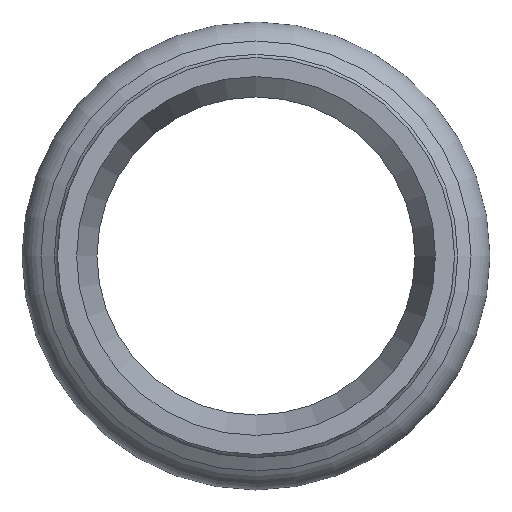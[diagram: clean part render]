
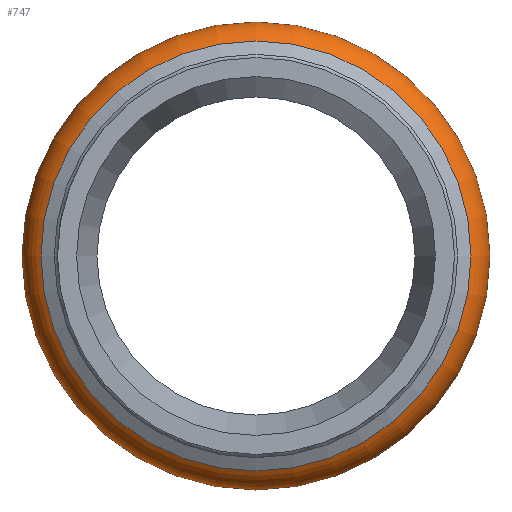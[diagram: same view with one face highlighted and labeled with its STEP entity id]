
A CAD part, left-side view. The second image highlights one B-rep face of the part: STEP entity #747.
In plain terms, the highlighted toroidal (fillet/blend) face has major radius 15.4 mm and minor radius 3 mm.
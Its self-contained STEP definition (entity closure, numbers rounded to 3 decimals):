
#449=CARTESIAN_POINT('',(-20.061,16.,0.));
#450=VERTEX_POINT('',#449);
#451=CARTESIAN_POINT('',(-20.061,0.,0.0));
#452=DIRECTION('',(1.0,0.0,0.0));
#453=DIRECTION('',(0.0,-1.0,0.0));
#454=AXIS2_PLACEMENT_3D('',#451,#452,#453);
#455=CIRCLE('',#454,16.);
#456=EDGE_CURVE('',#450,#450,#455,.T.);
#593=CARTESIAN_POINT('',(-25.598,16.9,0.0));
#594=VERTEX_POINT('',#593);
#595=CARTESIAN_POINT('',(-25.598,0.,0.0));
#596=DIRECTION('',(1.0,0.0,0.0));
#597=DIRECTION('',(0.0,1.0,0.0));
#598=AXIS2_PLACEMENT_3D('',#595,#596,#597);
#599=CIRCLE('',#598,16.9);
#600=EDGE_CURVE('',#594,#594,#599,.T.);
#736=CARTESIAN_POINT('',(-23.,0.,0.0));
#737=DIRECTION('',(1.0,0.,0.0));
#738=DIRECTION('',(0.0,0.0,-1.0));
#739=AXIS2_PLACEMENT_3D('',#736,#737,#738);
#740=TOROIDAL_SURFACE('',#739,15.4,3.);
#741=ORIENTED_EDGE('',*,*,#600,.T.);
#742=EDGE_LOOP('',(#741));
#743=FACE_OUTER_BOUND('',#742,.T.);
#744=ORIENTED_EDGE('',*,*,#456,.F.);
#745=EDGE_LOOP('',(#744));
#746=FACE_BOUND('',#745,.T.);
#747=ADVANCED_FACE('',(#743,#746),#740,.T.);
